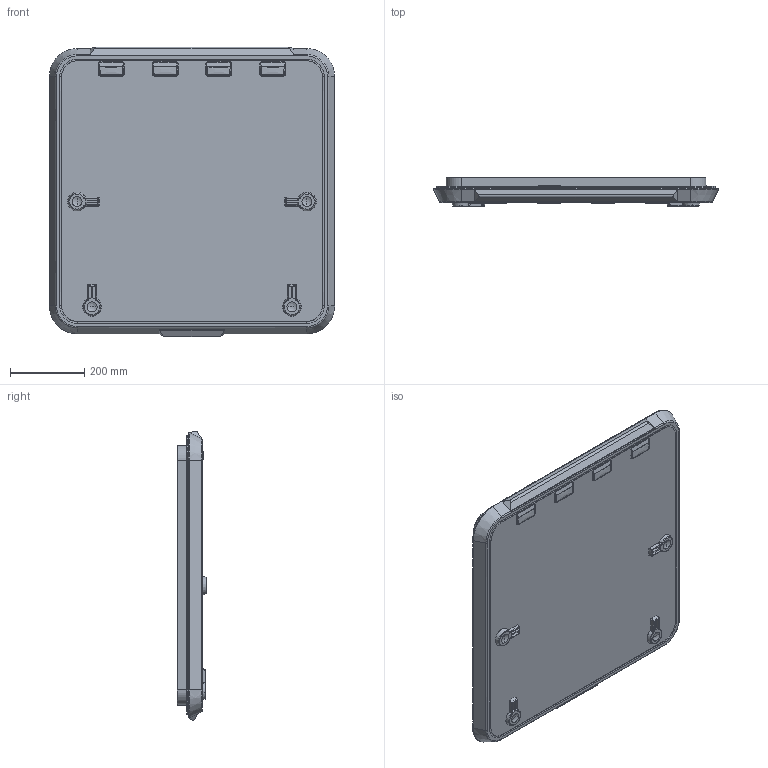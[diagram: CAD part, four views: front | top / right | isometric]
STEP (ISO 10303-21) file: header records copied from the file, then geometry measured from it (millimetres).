
FILE_DESCRIPTION((''),'2;1');
FILE_NAME('LEWMAR_HATCH_OCEAN_77_FLANGE_ASM','2008-02-21T',('skennedy'),(''),'PRO/ENGINEER BY PARAMETRIC TECHNOLOGY CORPORATION, 2007030','PRO/ENGINEER BY PARAMETRIC TECHNOLOGY CORPORATION, 2007030','');
FILE_SCHEMA(('CONFIG_CONTROL_DESIGN'));
Length unit declared in the file: millimetre
Products named in the file (6): OCEAN_ACRYLIC_77; FRAME_77_FLANGE; OCEAN_LARGE_HINGE_LEVER_1; OCEAN_LARGE_HANDLE_2; OCEAN_LARGE_HANDLE_1; LEWMAR_HATCH_OCEAN_77_FLANGE_ASM
Assembly tree (10 placements, depth 2):
  LEWMAR_HATCH_OCEAN_77_FLANGE_ASM
    OCEAN_ACRYLIC_77
    FRAME_77_FLANGE
    OCEAN_LARGE_HINGE_LEVER_1  x4
    OCEAN_LARGE_HANDLE_2  x2
    OCEAN_LARGE_HANDLE_1  x2
Bounding box: 766.95 x 79 x 778.36 mm (x, y, z)
Volume: 6091551.6 mm3; surface area: 1926740.7 mm2
Topology: 11 solids, 12 shells, 1581 faces, 3888 edges, 2348 vertices
Faces by surface type: bspline 504, plane 503, cylinder 383, torus 68, cone 64, sphere 48, extrusion 11
Entity records: 33151 total; most frequent: CARTESIAN_POINT 14924, ORIENTED_EDGE 4072, DIRECTION 3157, EDGE_CURVE 2044, VERTEX_POINT 1236, AXIS2_PLACEMENT_3D 1083, VECTOR 991, LINE 984
